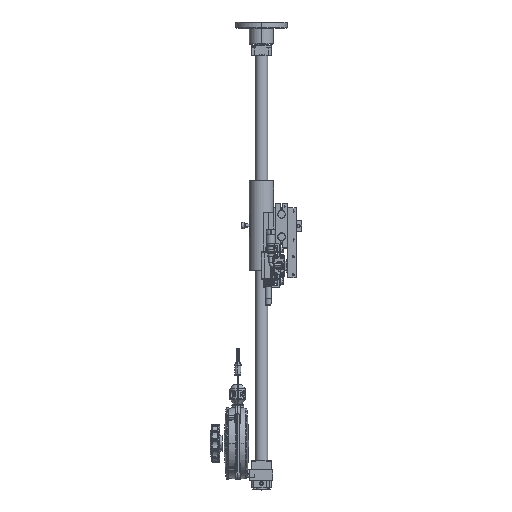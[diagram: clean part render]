
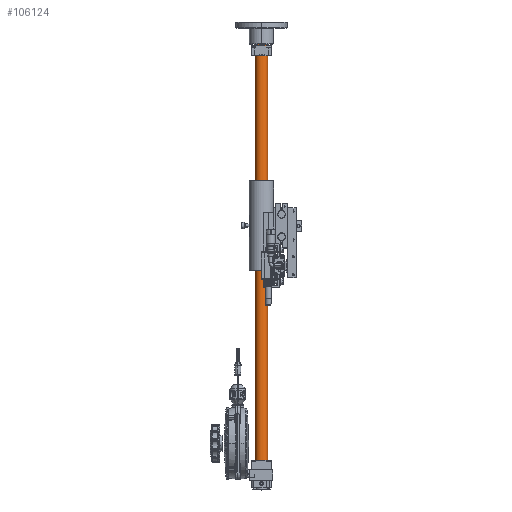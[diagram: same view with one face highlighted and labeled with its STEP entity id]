
A CAD part, top view. The second image highlights one B-rep face of the part: STEP entity #106124.
In plain terms, the highlighted cylindrical face has radius 10 mm (diameter 20 mm), a partial arc.
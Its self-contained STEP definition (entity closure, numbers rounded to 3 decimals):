
#5949 = EDGE_CURVE ( 'NONE', #109030, #19584, #21061, .T. ) ;
#7817 = AXIS2_PLACEMENT_3D ( 'NONE', #116528, #33519, #114161 ) ;
#12326 = EDGE_CURVE ( 'NONE', #14867, #109030, #37166, .T. ) ;
#12613 = CARTESIAN_POINT ( 'NONE',  ( 10., 467.437, 0. ) ) ;
#14867 = VERTEX_POINT ( 'NONE', #114490 ) ;
#19584 = VERTEX_POINT ( 'NONE', #104093 ) ;
#20340 = VECTOR ( 'NONE', #37391, 1000. ) ;
#20811 = LINE ( 'NONE', #12613, #20340 ) ;
#21061 = LINE ( 'NONE', #59509, #28853 ) ;
#21663 = FACE_OUTER_BOUND ( 'NONE', #64334, .T. ) ;
#28853 = VECTOR ( 'NONE', #67746, 1000. ) ;
#30515 = DIRECTION ( 'NONE',  ( -1., 0., 0. ) ) ;
#31953 = ORIENTED_EDGE ( 'NONE', *, *, #12326, .T. ) ;
#33519 = DIRECTION ( 'NONE',  ( 0., 1., 0. ) ) ;
#34380 = DIRECTION ( 'NONE',  ( 0., -1., 0. ) ) ;
#34385 = CARTESIAN_POINT ( 'NONE',  ( -10., 466.937, 0. ) ) ;
#37166 = CIRCLE ( 'NONE', #103424, 10. ) ;
#37391 = DIRECTION ( 'NONE',  ( 0., -1., 0. ) ) ;
#39417 = CARTESIAN_POINT ( 'NONE',  ( 0., 467.437, 0. ) ) ;
#48560 = EDGE_CURVE ( 'NONE', #19584, #97909, #109899, .T. ) ;
#57198 = CYLINDRICAL_SURFACE ( 'NONE', #84385, 10. ) ;
#59509 = CARTESIAN_POINT ( 'NONE',  ( -10., 467.437, 0. ) ) ;
#64334 = EDGE_LOOP ( 'NONE', ( #68262, #31953, #80548, #87136 ) ) ;
#67746 = DIRECTION ( 'NONE',  ( 0., -1., 0. ) ) ;
#68262 = ORIENTED_EDGE ( 'NONE', *, *, #110947, .F. ) ;
#75465 = DIRECTION ( 'NONE',  ( 0., -1., 0. ) ) ;
#80548 = ORIENTED_EDGE ( 'NONE', *, *, #5949, .T. ) ;
#84385 = AXIS2_PLACEMENT_3D ( 'NONE', #39417, #75465, #30515 ) ;
#87136 = ORIENTED_EDGE ( 'NONE', *, *, #48560, .T. ) ;
#97909 = VERTEX_POINT ( 'NONE', #107727 ) ;
#103424 = AXIS2_PLACEMENT_3D ( 'NONE', #115612, #34380, #106692 ) ;
#104093 = CARTESIAN_POINT ( 'NONE',  ( -10., -232.063, 0. ) ) ;
#106124 = ADVANCED_FACE ( 'NONE', ( #21663 ), #57198, .T. ) ;
#106692 = DIRECTION ( 'NONE',  ( 1., 0., 0. ) ) ;
#107727 = CARTESIAN_POINT ( 'NONE',  ( 10., -232.063, 0. ) ) ;
#109030 = VERTEX_POINT ( 'NONE', #34385 ) ;
#109899 = CIRCLE ( 'NONE', #7817, 10. ) ;
#110947 = EDGE_CURVE ( 'NONE', #14867, #97909, #20811, .T. ) ;
#114161 = DIRECTION ( 'NONE',  ( 1., 0., 0. ) ) ;
#114490 = CARTESIAN_POINT ( 'NONE',  ( 10., 466.937, 0. ) ) ;
#115612 = CARTESIAN_POINT ( 'NONE',  ( 0., 466.937, 0. ) ) ;
#116528 = CARTESIAN_POINT ( 'NONE',  ( 0., -232.063, 0. ) ) ;
